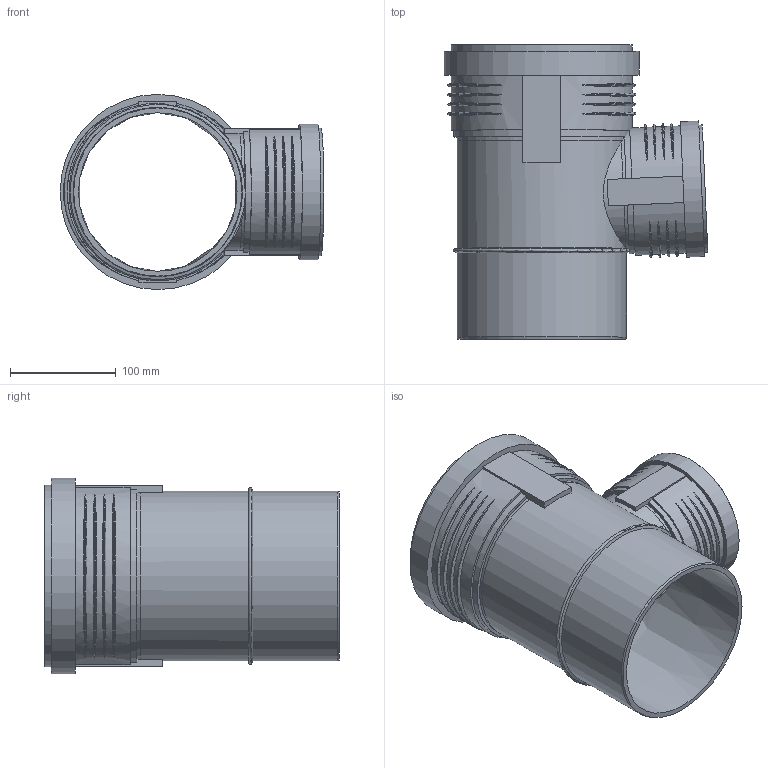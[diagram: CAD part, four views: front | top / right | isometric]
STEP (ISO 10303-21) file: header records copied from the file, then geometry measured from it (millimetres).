
FILE_DESCRIPTION(/* description */ (''),/* implementation_level */ '2;1');
FILE_NAME(/* name */ 'Z:\Geberit\Export\NewStep\390751.stp',/* time_stamp */ '2014-04-02T08:16:54+02:00',/* author */ ('ML'),/* organization */ (''),/* preprocessor_version */ 'ST-DEVELOPER v15.2',/* originating_system */ 'Autodesk Inventor 2014',/* authorisation */ '');
FILE_SCHEMA (('AUTOMOTIVE_DESIGN { 1 0 10303 214 3 1 1 }'));
Length unit declared in the file: millimetre
Products named in the file (4): 861614; 861404; 861560; 390751
Bounding box: 249.19 x 278.2 x 184.5 mm (x, y, z)
Volume: 864291.3 mm3; surface area: 386860.9 mm2
Topology: 3 solids, 3 shells, 126 faces, 312 edges, 217 vertices
Faces by surface type: torus 50, plane 37, cylinder 31, cone 8
Full cylindrical faces by diameter (mm): 103 x1, 103.2 x1, 110.2 x2, 113.3 x2, 120.3 x1, 121.1 x1, 128.1 x1, 150.65 x1, 160.25 x2, 161.7 x2, 171.3 x1, 174.9 x1, 184.5 x1
Entity records: 5293 total; most frequent: CARTESIAN_POINT 2313, ORIENTED_EDGE 560, DIRECTION 538, EDGE_CURVE 280, AXIS2_PLACEMENT_3D 233, VERTEX_POINT 209, EDGE_LOOP 183, ADVANCED_FACE 126
